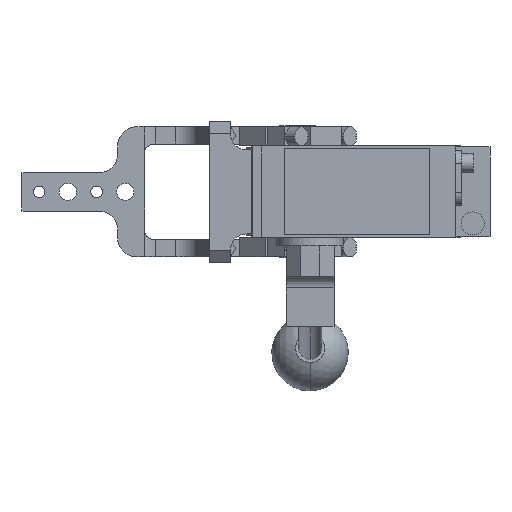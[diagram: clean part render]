
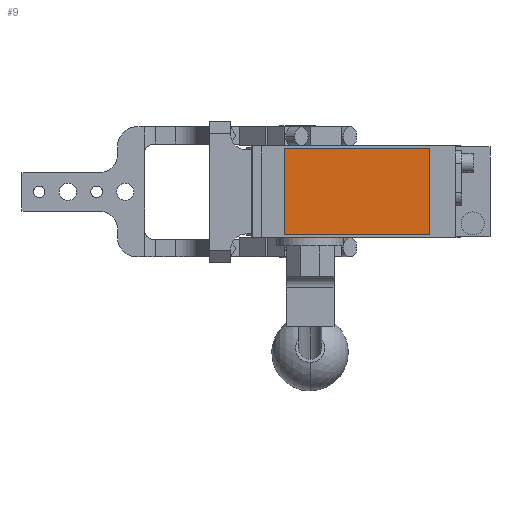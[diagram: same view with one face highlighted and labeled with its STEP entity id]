
A CAD part, front view. The second image highlights one B-rep face of the part: STEP entity #9.
In plain terms, the highlighted planar face has unit normal (0, -1, 0).
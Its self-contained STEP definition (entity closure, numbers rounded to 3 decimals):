
#9 = ADVANCED_FACE ( 'NONE', ( #3667 ), #5918, .T. ) ;
#518 = VECTOR ( 'NONE', #13659, 1000. ) ;
#1072 = VERTEX_POINT ( 'NONE', #15795 ) ;
#2315 = LINE ( 'NONE', #7253, #4505 ) ;
#2826 = DIRECTION ( 'NONE',  ( 0., 0., -1. ) ) ;
#3508 = DIRECTION ( 'NONE',  ( 0., -1., 0. ) ) ;
#3667 = FACE_OUTER_BOUND ( 'NONE', #12062, .T. ) ;
#4142 = AXIS2_PLACEMENT_3D ( 'NONE', #14570, #3508, #8427 ) ;
#4505 = VECTOR ( 'NONE', #9739, 1000. ) ;
#4816 = EDGE_CURVE ( 'NONE', #7160, #14738, #5482, .T. ) ;
#4823 = LINE ( 'NONE', #8705, #518 ) ;
#5048 = EDGE_CURVE ( 'NONE', #1072, #7160, #4823, .T. ) ;
#5482 = LINE ( 'NONE', #9045, #10175 ) ;
#5918 = PLANE ( 'NONE',  #4142 ) ;
#6065 = ORIENTED_EDGE ( 'NONE', *, *, #4816, .T. ) ;
#6252 = CARTESIAN_POINT ( 'NONE',  ( -7., -280.5, 22.5 ) ) ;
#7160 = VERTEX_POINT ( 'NONE', #6252 ) ;
#7216 = EDGE_CURVE ( 'NONE', #8197, #1072, #2315, .T. ) ;
#7253 = CARTESIAN_POINT ( 'NONE',  ( 69., -280.5, 22.5 ) ) ;
#8197 = VERTEX_POINT ( 'NONE', #11523 ) ;
#8200 = ORIENTED_EDGE ( 'NONE', *, *, #13364, .T. ) ;
#8427 = DIRECTION ( 'NONE',  ( 0., 0., -1. ) ) ;
#8428 = ORIENTED_EDGE ( 'NONE', *, *, #7216, .T. ) ;
#8705 = CARTESIAN_POINT ( 'NONE',  ( -7., -280.5, 22.5 ) ) ;
#9045 = CARTESIAN_POINT ( 'NONE',  ( -7., -280.5, 22.5 ) ) ;
#9739 = DIRECTION ( 'NONE',  ( 0., 0., 1. ) ) ;
#10175 = VECTOR ( 'NONE', #2826, 1000. ) ;
#10268 = LINE ( 'NONE', #11262, #13070 ) ;
#11262 = CARTESIAN_POINT ( 'NONE',  ( -7., -280.5, -22.5 ) ) ;
#11523 = CARTESIAN_POINT ( 'NONE',  ( 69., -280.5, -22.5 ) ) ;
#12062 = EDGE_LOOP ( 'NONE', ( #6065, #8200, #8428, #15145 ) ) ;
#13070 = VECTOR ( 'NONE', #15212, 1000. ) ;
#13239 = CARTESIAN_POINT ( 'NONE',  ( -7., -280.5, -22.5 ) ) ;
#13364 = EDGE_CURVE ( 'NONE', #14738, #8197, #10268, .T. ) ;
#13659 = DIRECTION ( 'NONE',  ( -1., 0., 0. ) ) ;
#14570 = CARTESIAN_POINT ( 'NONE',  ( 0., -280.5, 0. ) ) ;
#14738 = VERTEX_POINT ( 'NONE', #13239 ) ;
#15145 = ORIENTED_EDGE ( 'NONE', *, *, #5048, .T. ) ;
#15212 = DIRECTION ( 'NONE',  ( 1., 0., 0. ) ) ;
#15795 = CARTESIAN_POINT ( 'NONE',  ( 69., -280.5, 22.5 ) ) ;
